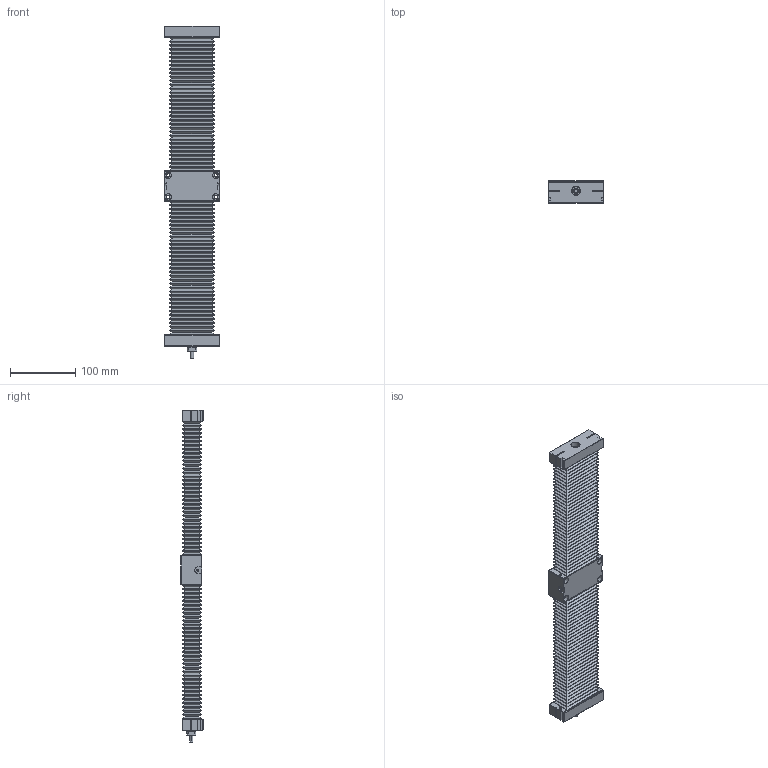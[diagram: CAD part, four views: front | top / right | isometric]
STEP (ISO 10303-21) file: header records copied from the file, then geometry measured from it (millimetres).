
FILE_DESCRIPTION (( 'STEP AP214' ), '1' );
FILE_NAME ('TKC0802B-250H0C-Ä£×é.step', '2025-08-25T08:36:15', ( '' ), ( '' ), 'SwSTEP 2.0', 'SolidWorks 2024', '' );
FILE_SCHEMA (( 'AUTOMOTIVE_DESIGN' ));
Length unit declared in the file: millimetre
Products named in the file (4): TKC08-02; TKC08-250-01; TKC0802B-250H0C-模组; TKC08-250-03
Assembly tree (4 placements, depth 2):
  TKC0802B-250H0C-模组
    TKC08-02
    TKC08-250-01
    TKC08-250-03  x2
Bounding box: 85 x 34 x 508 mm (x, y, z)
Volume: 755885.3 mm3; surface area: 299931.4 mm2
Topology: 10 solids, 16 shells, 1570 faces, 3514 edges, 2018 vertices
Faces by surface type: plane 1140, cylinder 349, cone 42, torus 28, bspline 11
Entity records: 40855 total; most frequent: CARTESIAN_POINT 15141, ORIENTED_EDGE 5208, DIRECTION 5086, EDGE_CURVE 2604, VECTOR 1786, LINE 1786, AXIS2_PLACEMENT_3D 1650, VERTEX_POINT 1566
